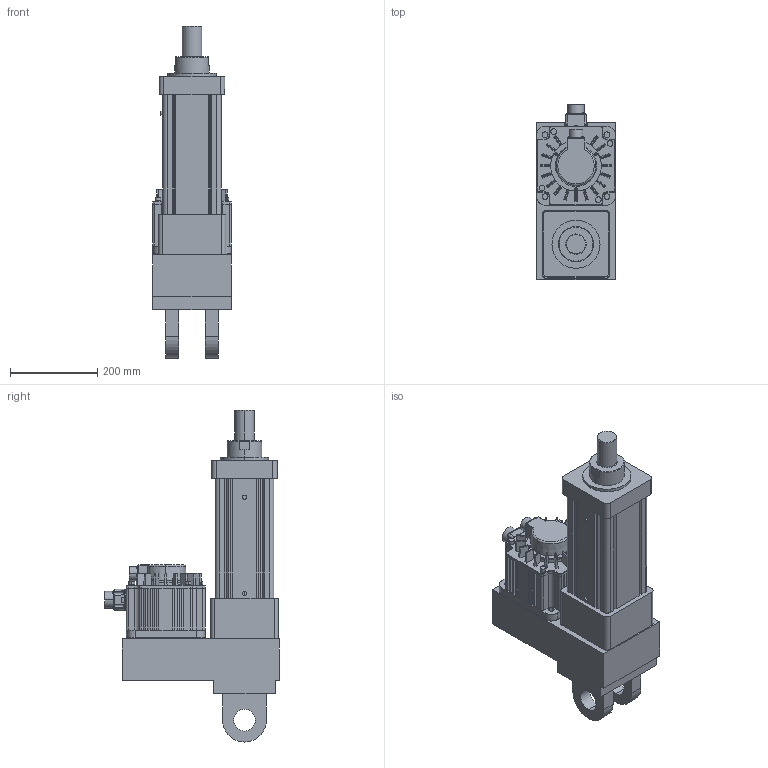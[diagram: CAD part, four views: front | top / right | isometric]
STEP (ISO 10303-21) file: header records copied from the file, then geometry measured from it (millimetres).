
FILE_DESCRIPTION (( 'STEP AP203' ), '1' );
FILE_NAME ('S5殏殿綴帣蝓假蚾.STEP', '2024-05-27T05:31:58', ( '' ), ( '' ), 'SwSTEP 2.0', 'SolidWorks 2018', '' );
FILE_SCHEMA (( 'CONFIG_CONTROL_DESIGN' ));
Length unit declared in the file: millimetre
Products named in the file (3): S5殏殿綴帣蝓; ECMA-EX1820RS-180框號系列機種-2KW中慣量系列; S5殏殿綴帣蝓假蚾
Assembly tree (2 placements, depth 2):
  S5殏殿綴帣蝓假蚾
    S5殏殿綴帣蝓
    ECMA-EX1820RS-180框號系列機種-2KW中慣量系列
Bounding box: 180 x 400.02 x 759 mm (x, y, z)
Volume: 15990039.6 mm3; surface area: 1097653.1 mm2
Topology: 3 solids, 15 shells, 939 faces, 2249 edges, 1421 vertices
Faces by surface type: plane 502, cylinder 332, cone 62, bspline 27, torus 16
Entity records: 29429 total; most frequent: CARTESIAN_POINT 7252, DIRECTION 4556, ORIENTED_EDGE 4494, EDGE_CURVE 2247, AXIS2_PLACEMENT_3D 1585, VERTEX_POINT 1421, LINE 1386, VECTOR 1386
